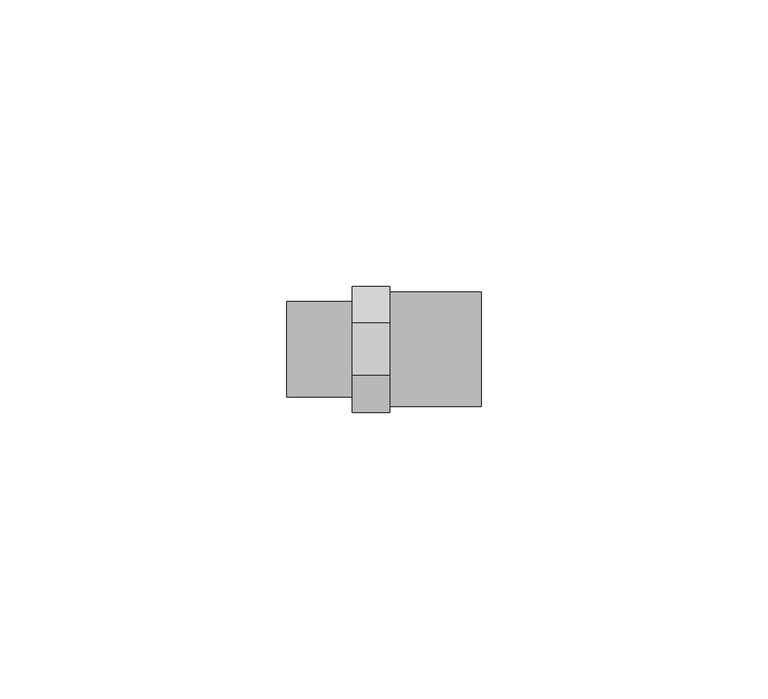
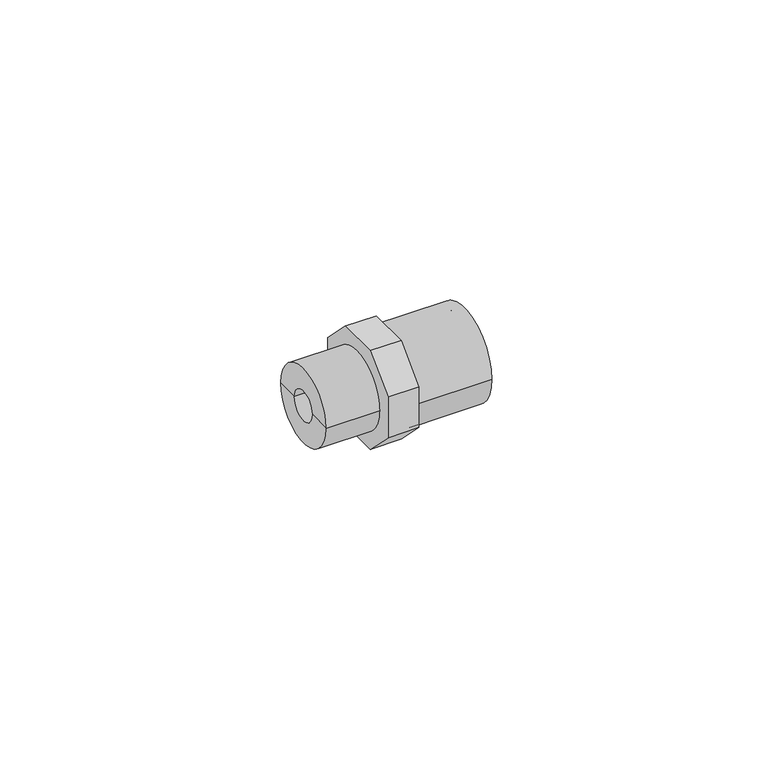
"""IFC4 building model written with IfcOpenShell, lengths in millimetres: pipe fitting geometry, Durapipe_PipeFitting_PVC_MaleThreadedAdaptors : 20 x 16 x G3⁄8."""

from ifc_helpers import new_model, si_unit, point, frame, origin, origin_2d, place, context, project, spatial, polyline, circle_curve, trimmed, segment, composite_curve, outline, extrude, source, transform, mapped, element, save
from ifc_brep_helpers import plane_surface, cylinder_surface, revolved_surface, advanced_brep


def pipe_fitting_59a394b3(model_context):
    return source(origin(), model_context, "Body", "SolidModel", [
        extrude(outline(polyline([(11.0, 4.5563492), (11.0, -4.5563492), (4.5563492, -11.0), (-4.5563492, -11.0), (-11.0, -4.5563492), (-11.0, 4.5563492), (-4.5563492, 11.0), (4.5563492, 11.0), (11.0, 4.5563492)]), holes=[composite_curve([segment(trimmed(circle_curve(origin_2d(), 3.3), [point((3.3, 0.0))], [point((-3.3, 0.0))], True, "CARTESIAN"), True, "CONTINUOUS"), segment(trimmed(circle_curve(origin_2d(), 3.3), [point((-3.3, 0.0))], [point((3.3, 0.0))], True, "CARTESIAN"), True, "CONTINUOUS")], self_intersect=False)]), frame((-6.5, 0.0, 0.0), z_axis=(1.0, 0.0, 0.0), x_axis=(0.0, 1.0, 0.0)), (0.0, 0.0, 1.0), 6.5),
        advanced_brep(
        [(0.0, -10.0, 0.0), (0.0, 10.0, 0.0), (16.0, 10.0, 0.0), (16.0, -10.0, 0.0), (16.0, 8.0, 0.0), (16.0, -8.0, 0.0), (0.0, 0.0, 0.0), (2.0, 8.0, 0.0), (2.0, -8.0, 0.0), (2.0, 0.0, 0.0)],
        [
            (0, 1, circle_curve(frame((0.0, 0.0, 0.0), z_axis=(1.0, 0.0, 0.0), x_axis=(0.0, 1.0, 0.0)), 10.0)),
            (1, 2),
            (2, 3, circle_curve(frame((16.0, 0.0, 0.0), z_axis=(-1.0, 0.0, 0.0), x_axis=(0.0, 1.0, 0.0)), 10.0)),
            (3, 0),
            (1, 0, circle_curve(frame((0.0, 0.0, 0.0), z_axis=(1.0, 0.0, 0.0), x_axis=(0.0, 1.0, 0.0)), 10.0)),
            (3, 2, circle_curve(frame((16.0, 0.0, 0.0), z_axis=(-1.0, 0.0, 0.0), x_axis=(0.0, 1.0, 0.0)), 10.0)),
            (2, 4),
            (4, 5, circle_curve(frame((16.0, 0.0, 0.0), z_axis=(-1.0, 0.0, 0.0), x_axis=(0.0, 1.0, 0.0)), 8.0)),
            (5, 3),
            (5, 4, circle_curve(frame((16.0, 0.0, 0.0), z_axis=(-1.0, 0.0, 0.0), x_axis=(0.0, 1.0, 0.0)), 8.0)),
            (0, 6),
            (6, 1),
            (7, 8, circle_curve(frame((2.0, 0.0, 0.0), z_axis=(-1.0, 0.0, 0.0), x_axis=(0.0, 1.0, 0.0)), 8.0)),
            (8, 5),
            (4, 7),
            (8, 7, circle_curve(frame((2.0, 0.0, 0.0), z_axis=(-1.0, 0.0, 0.0), x_axis=(0.0, 1.0, 0.0)), 8.0)),
            (7, 9),
            (9, 8),
        ],
        [
            cylinder_surface(frame((417.4572068, 0.0, 0.0), z_axis=(-1.0, 0.0, 0.0), x_axis=(0.0, 1.0, 0.0)), 10.0),
            plane_surface(frame((16.0, 0.0, 0.0), z_axis=(1.0, 0.0, 0.0), x_axis=(0.0, 1.0, 0.0))),
            plane_surface(frame((0.0, 0.0, 0.0), z_axis=(-1.0, 0.0, 0.0), x_axis=(0.0, 1.0, 0.0))),
            revolved_surface(polyline([(2.0, 8.0, 0.0), (16.0, 8.0, 0.0)]), (29.5575137, 0.0, 0.0), (-1.0, 0.0, 0.0)),
            plane_surface(frame((2.0, 0.0, 0.0), z_axis=(1.0, 0.0, 0.0), x_axis=(0.0, 1.0, 0.0))),
        ],
        [
            (0, [[1, 2, 3, 4]]),
            (0, [[-2, 5, -4, 6]]),
            (1, [[-3, 7, 8, 9]]),
            (1, [[-6, -9, 10, -7]]),
            (2, [[-1, 11, 12]]),
            (2, [[-5, -12, -11]]),
            (3, [[13, 14, -8, 15]]),
            (3, [[16, -15, -10, -14]]),
            (4, [[-13, 17, 18]]),
            (4, [[-16, -18, -17]]),
        ],
    ),
        advanced_brep(
        [(-6.5, -3.3, 0.0), (-6.5, 3.3, 0.0), (-18.0, 3.3, 0.0), (-18.0, -3.3, 0.0), (-6.5, -8.35, 0.0), (-6.5, 8.35, 0.0), (-18.0, -8.35, 0.0), (-18.0, 8.35, 0.0)],
        [
            (0, 1, circle_curve(frame((-6.5, 0.0, 0.0), z_axis=(1.0, 0.0, 0.0), x_axis=(0.0, 1.0, 0.0)), 3.3)),
            (1, 2),
            (2, 3, circle_curve(frame((-18.0, 0.0, 0.0), z_axis=(-1.0, 0.0, 0.0), x_axis=(0.0, 1.0, 0.0)), 3.3)),
            (3, 0),
            (1, 0, circle_curve(frame((-6.5, 0.0, 0.0), z_axis=(1.0, 0.0, 0.0), x_axis=(0.0, 1.0, 0.0)), 3.3)),
            (3, 2, circle_curve(frame((-18.0, 0.0, 0.0), z_axis=(-1.0, 0.0, 0.0), x_axis=(0.0, 1.0, 0.0)), 3.3)),
            (4, 5, circle_curve(frame((-6.5, 0.0, 0.0), z_axis=(1.0, 0.0, 0.0), x_axis=(0.0, 1.0, 0.0)), 8.35)),
            (5, 1),
            (0, 4),
            (5, 4, circle_curve(frame((-6.5, 0.0, 0.0), z_axis=(1.0, 0.0, 0.0), x_axis=(0.0, 1.0, 0.0)), 8.35)),
            (6, 7, circle_curve(frame((-18.0, 0.0, 0.0), z_axis=(1.0, 0.0, 0.0), x_axis=(0.0, 1.0, 0.0)), 8.35)),
            (7, 5),
            (4, 6),
            (7, 6, circle_curve(frame((-18.0, 0.0, 0.0), z_axis=(1.0, 0.0, 0.0), x_axis=(0.0, 1.0, 0.0)), 8.35)),
            (2, 7),
            (6, 3),
        ],
        [
            revolved_surface(polyline([(-18.0, 3.3, 0.0), (-6.5, 3.3, 0.0)]), (-33.0, 0.0, 0.0), (-1.0, 0.0, 0.0)),
            plane_surface(frame((-6.5, 0.0, 0.0), z_axis=(1.0, 0.0, 0.0), x_axis=(0.0, 1.0, 0.0))),
            cylinder_surface(frame((-33.0, 0.0, 0.0), z_axis=(-1.0, 0.0, 0.0), x_axis=(0.0, 1.0, 0.0)), 8.35),
            plane_surface(frame((-18.0, 0.0, 0.0), z_axis=(-1.0, 0.0, 0.0), x_axis=(0.0, 1.0, 0.0))),
        ],
        [
            (0, [[1, 2, 3, 4]]),
            (0, [[5, -4, 6, -2]]),
            (1, [[7, 8, -1, 9]]),
            (1, [[10, -9, -5, -8]]),
            (2, [[11, 12, -7, 13]]),
            (2, [[14, -13, -10, -12]]),
            (3, [[-3, 15, -11, 16]]),
            (3, [[-6, -16, -14, -15]]),
        ],
    ),
    ])


if __name__ == "__main__":
    model = new_model("IFC4")
    model_context = context("Model", 3, world=origin())
    ifc_project = project(units=[si_unit("LENGTHUNIT", "METRE", prefix="MILLI")], contexts=[model_context])
    site = spatial("IfcSite", under=ifc_project)
    building = spatial("IfcBuilding", under=site)
    placement = place(None, origin())
    pipe_fitting_shape = pipe_fitting_59a394b3(model_context)
    element("IfcPipeFitting", 1, ObjectType="Durapipe_PipeFitting_PVC_MaleThreadedAdaptors : 20 x 16 x G3⁄8", at=placement, inside=building, context=model_context, shape_type="MappedRepresentation", body=[
        mapped(pipe_fitting_shape, transform((0.0, 0.0, 0.0), x_axis=(1.0, 0.0, 0.0), y_axis=(0.0, 1.0, 0.0), z_axis=(0.0, 0.0, 1.0))),
    ])
    save(model, "model.ifc")
